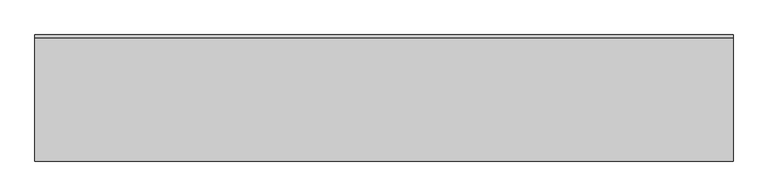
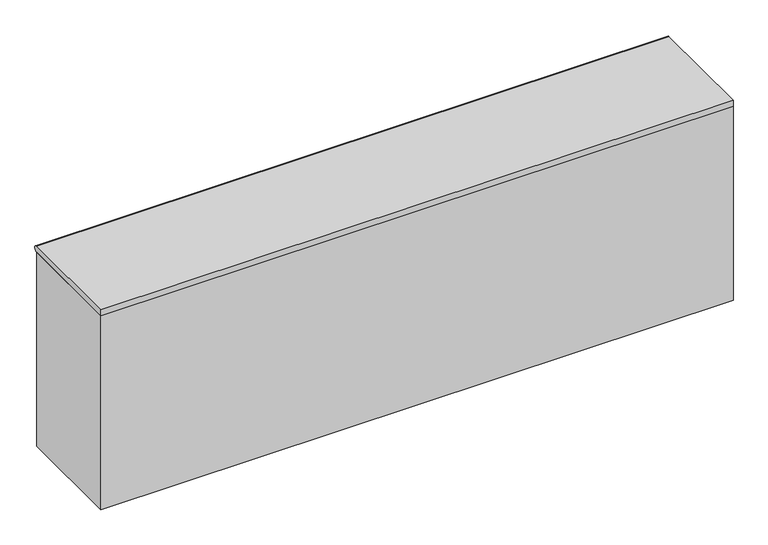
"""IFC4 building model written with IfcOpenShell, lengths in millimetres: flow terminal geometry, ライニング : ライニング."""

from ifc_helpers import new_model, si_unit, point, frame, frame_2d, origin, origin_with_axes, place, context, project, spatial, polyline, circle_curve, trimmed, segment, composite_curve, outline, extrude, source, transform, mapped, element, save


def flow_terminal_46fab2b1(model_context):
    return source(origin(), model_context, "Body", "SweptSolid", [
        extrude(outline(composite_curve([segment(trimmed(circle_curve(frame_2d((585.0, 985.0)), 15.0), [point((585.0, 1000.0))], [point((585.0, 970.0))], False, "CARTESIAN"), True, "CONTINUOUS"), segment(polyline([(585.0, 970.0), (60.0, 970.0), (60.0, 1000.0), (585.0, 1000.0)]), True, "CONTINUOUS")], self_intersect=False)), frame((-1370.0, 0.0, 0.0), z_axis=(1.0, 0.0, 0.0), x_axis=(0.0, 1.0, 0.0)), (0.0, 0.0, 1.0), 2990.0),
        extrude(outline(polyline([(1620.0, 585.0), (1620.0, 60.0), (-1370.0, 60.0), (-1370.0, 585.0), (1620.0, 585.0)])), origin_with_axes(), (0.0, 0.0, 1.0), 970.0),
    ])


if __name__ == "__main__":
    model = new_model("IFC4")
    model_context = context("Model", 3, world=origin())
    ifc_project = project(units=[si_unit("LENGTHUNIT", "METRE", prefix="MILLI")], contexts=[model_context])
    site = spatial("IfcSite", under=ifc_project)
    building = spatial("IfcBuilding", under=site)
    placement = place(None, origin())
    flow_terminal_shape = flow_terminal_46fab2b1(model_context)
    element("IfcFlowTerminal", 1, ObjectType="ライニング : ライニング", at=placement, inside=building, context=model_context, shape_type="MappedRepresentation", body=[
        mapped(flow_terminal_shape, transform((0.0, 0.0, 0.0), x_axis=(1.0, 0.0, 0.0), y_axis=(0.0, 1.0, 0.0), z_axis=(0.0, 0.0, 1.0))),
    ])
    save(model, "model.ifc")
